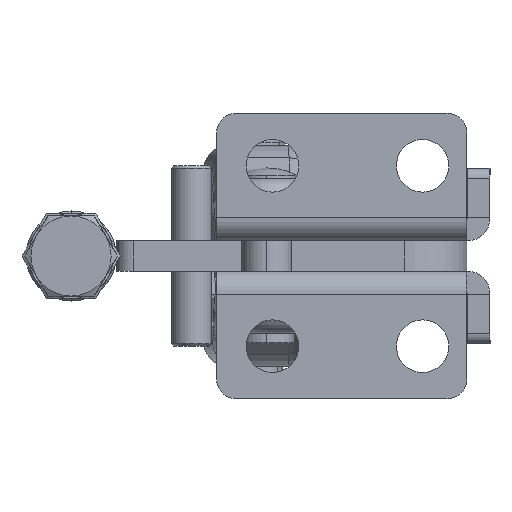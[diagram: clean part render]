
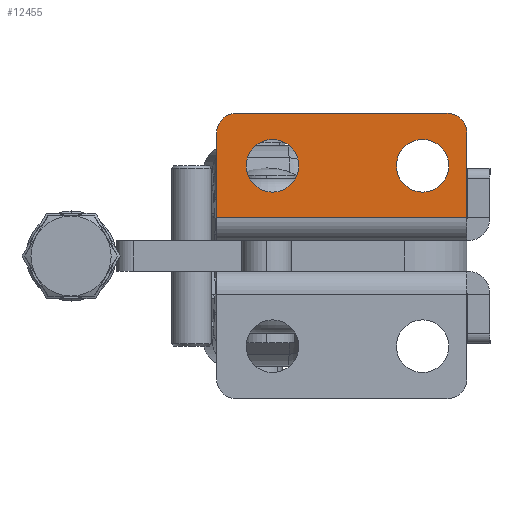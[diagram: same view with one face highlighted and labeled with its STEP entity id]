
A CAD part, front view. The second image highlights one B-rep face of the part: STEP entity #12455.
In plain terms, the highlighted planar face has unit normal (0, -1, 0).
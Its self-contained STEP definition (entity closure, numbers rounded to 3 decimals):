
#285 = EDGE_CURVE ( 'NONE', #6917, #8623, #18776, .T. ) ;
#487 = VERTEX_POINT ( 'NONE', #4757 ) ;
#539 = CARTESIAN_POINT ( 'NONE',  ( -38.838, 0., 9.75 ) ) ;
#612 = CARTESIAN_POINT ( 'NONE',  ( -50., 0., 25.5 ) ) ;
#642 = VECTOR ( 'NONE', #10118, 1000. ) ;
#686 = EDGE_CURVE ( 'NONE', #11677, #17112, #13196, .T. ) ;
#810 = DIRECTION ( 'NONE',  ( 0., 0., -1. ) ) ;
#911 = AXIS2_PLACEMENT_3D ( 'NONE', #8637, #19960, #10245 ) ;
#1321 = ORIENTED_EDGE ( 'NONE', *, *, #8608, .T. ) ;
#1539 = AXIS2_PLACEMENT_3D ( 'NONE', #2250, #13527, #3902 ) ;
#2031 = DIRECTION ( 'NONE',  ( 1., 0., 0. ) ) ;
#2097 = PLANE ( 'NONE',  #2603 ) ;
#2234 = DIRECTION ( 'NONE',  ( 0., 0., -1. ) ) ;
#2250 = CARTESIAN_POINT ( 'NONE',  ( -4., 0., 21.5 ) ) ;
#2557 = DIRECTION ( 'NONE',  ( 0., 0., 1. ) ) ;
#2594 = AXIS2_PLACEMENT_3D ( 'NONE', #15671, #10229, #2557 ) ;
#2603 = AXIS2_PLACEMENT_3D ( 'NONE', #612, #11871, #2234 ) ;
#3262 = VERTEX_POINT ( 'NONE', #11634 ) ;
#3670 = CARTESIAN_POINT ( 'NONE',  ( -50., 0., 4.6 ) ) ;
#3693 = CARTESIAN_POINT ( 'NONE',  ( 0., 0., 25.5 ) ) ;
#3769 = CIRCLE ( 'NONE', #1539, 4. ) ;
#3902 = DIRECTION ( 'NONE',  ( 0., 0., -1. ) ) ;
#4314 = CARTESIAN_POINT ( 'NONE',  ( -8.838, 0., 20.25 ) ) ;
#4429 = EDGE_CURVE ( 'NONE', #11258, #3262, #16542, .T. ) ;
#4757 = CARTESIAN_POINT ( 'NONE',  ( -50., 0., 21.5 ) ) ;
#4797 = AXIS2_PLACEMENT_3D ( 'NONE', #20168, #10443, #810 ) ;
#5001 = EDGE_LOOP ( 'NONE', ( #19706, #5778 ) ) ;
#5778 = ORIENTED_EDGE ( 'NONE', *, *, #20882, .T. ) ;
#5920 = AXIS2_PLACEMENT_3D ( 'NONE', #8196, #19518, #9801 ) ;
#6175 = CARTESIAN_POINT ( 'NONE',  ( -50., 0., 4.6 ) ) ;
#6543 = LINE ( 'NONE', #3670, #10812 ) ;
#6917 = VERTEX_POINT ( 'NONE', #7858 ) ;
#7123 = EDGE_CURVE ( 'NONE', #15711, #7368, #6543, .T. ) ;
#7368 = VERTEX_POINT ( 'NONE', #7499 ) ;
#7499 = CARTESIAN_POINT ( 'NONE',  ( 0., 0., 4.6 ) ) ;
#7686 = DIRECTION ( 'NONE',  ( 0., 0., 1. ) ) ;
#7752 = CARTESIAN_POINT ( 'NONE',  ( -8.838, 0., 15. ) ) ;
#7858 = CARTESIAN_POINT ( 'NONE',  ( -38.838, 0., 20.25 ) ) ;
#8086 = ORIENTED_EDGE ( 'NONE', *, *, #686, .T. ) ;
#8196 = CARTESIAN_POINT ( 'NONE',  ( -38.838, 0., 15. ) ) ;
#8482 = ORIENTED_EDGE ( 'NONE', *, *, #12500, .T. ) ;
#8608 = EDGE_CURVE ( 'NONE', #487, #15711, #9014, .T. ) ;
#8623 = VERTEX_POINT ( 'NONE', #539 ) ;
#8637 = CARTESIAN_POINT ( 'NONE',  ( -8.838, 0., 15. ) ) ;
#8820 = CARTESIAN_POINT ( 'NONE',  ( -8.838, 0., 9.75 ) ) ;
#9014 = LINE ( 'NONE', #19895, #20911 ) ;
#9555 = ORIENTED_EDGE ( 'NONE', *, *, #19986, .F. ) ;
#9801 = DIRECTION ( 'NONE',  ( 0., 0., 1. ) ) ;
#9981 = DIRECTION ( 'NONE',  ( 0., 1., 0. ) ) ;
#10118 = DIRECTION ( 'NONE',  ( 0., 0., -1. ) ) ;
#10229 = DIRECTION ( 'NONE',  ( 0., 1., 0. ) ) ;
#10245 = DIRECTION ( 'NONE',  ( 0., 0., 1. ) ) ;
#10443 = DIRECTION ( 'NONE',  ( 0., -1., 0. ) ) ;
#10812 = VECTOR ( 'NONE', #2031, 1000. ) ;
#11033 = EDGE_LOOP ( 'NONE', ( #18436, #8086 ) ) ;
#11258 = VERTEX_POINT ( 'NONE', #12199 ) ;
#11634 = CARTESIAN_POINT ( 'NONE',  ( -4., 0., 25.5 ) ) ;
#11677 = VERTEX_POINT ( 'NONE', #8820 ) ;
#11871 = DIRECTION ( 'NONE',  ( 0., -1., 0. ) ) ;
#12199 = CARTESIAN_POINT ( 'NONE',  ( -46., 0., 25.5 ) ) ;
#12237 = VERTEX_POINT ( 'NONE', #20041 ) ;
#12455 = ADVANCED_FACE ( 'NONE', ( #19670, #15874, #19151 ), #2097, .T. ) ;
#12500 = EDGE_CURVE ( 'NONE', #11258, #487, #18637, .T. ) ;
#13100 = EDGE_LOOP ( 'NONE', ( #9555, #13140, #17508, #8482, #1321, #17149 ) ) ;
#13140 = ORIENTED_EDGE ( 'NONE', *, *, #18312, .T. ) ;
#13196 = CIRCLE ( 'NONE', #15164, 5.25 ) ;
#13462 = CIRCLE ( 'NONE', #5920, 5.25 ) ;
#13527 = DIRECTION ( 'NONE',  ( 0., -1., 0. ) ) ;
#14183 = EDGE_CURVE ( 'NONE', #17112, #11677, #17101, .T. ) ;
#14625 = CARTESIAN_POINT ( 'NONE',  ( -50., 0., 25.5 ) ) ;
#15002 = DIRECTION ( 'NONE',  ( 0., 0., -1. ) ) ;
#15164 = AXIS2_PLACEMENT_3D ( 'NONE', #7752, #9981, #7686 ) ;
#15671 = CARTESIAN_POINT ( 'NONE',  ( -38.838, 0., 15. ) ) ;
#15711 = VERTEX_POINT ( 'NONE', #6175 ) ;
#15874 = FACE_BOUND ( 'NONE', #5001, .T. ) ;
#16542 = LINE ( 'NONE', #14625, #17035 ) ;
#16818 = LINE ( 'NONE', #3693, #642 ) ;
#17035 = VECTOR ( 'NONE', #19431, 1000. ) ;
#17101 = CIRCLE ( 'NONE', #911, 5.25 ) ;
#17112 = VERTEX_POINT ( 'NONE', #4314 ) ;
#17149 = ORIENTED_EDGE ( 'NONE', *, *, #7123, .T. ) ;
#17508 = ORIENTED_EDGE ( 'NONE', *, *, #4429, .F. ) ;
#18312 = EDGE_CURVE ( 'NONE', #12237, #3262, #3769, .T. ) ;
#18436 = ORIENTED_EDGE ( 'NONE', *, *, #14183, .T. ) ;
#18637 = CIRCLE ( 'NONE', #4797, 4. ) ;
#18776 = CIRCLE ( 'NONE', #2594, 5.25 ) ;
#19151 = FACE_OUTER_BOUND ( 'NONE', #13100, .T. ) ;
#19431 = DIRECTION ( 'NONE',  ( 1., 0., 0. ) ) ;
#19518 = DIRECTION ( 'NONE',  ( 0., 1., 0. ) ) ;
#19670 = FACE_BOUND ( 'NONE', #11033, .T. ) ;
#19706 = ORIENTED_EDGE ( 'NONE', *, *, #285, .T. ) ;
#19895 = CARTESIAN_POINT ( 'NONE',  ( -50., 0., 25.5 ) ) ;
#19960 = DIRECTION ( 'NONE',  ( 0., 1., 0. ) ) ;
#19986 = EDGE_CURVE ( 'NONE', #12237, #7368, #16818, .T. ) ;
#20041 = CARTESIAN_POINT ( 'NONE',  ( 0., 0., 21.5 ) ) ;
#20168 = CARTESIAN_POINT ( 'NONE',  ( -46., 0., 21.5 ) ) ;
#20882 = EDGE_CURVE ( 'NONE', #8623, #6917, #13462, .T. ) ;
#20911 = VECTOR ( 'NONE', #15002, 1000. ) ;
